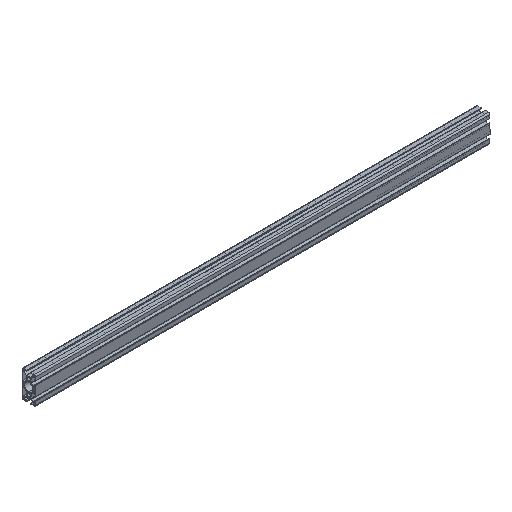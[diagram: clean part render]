
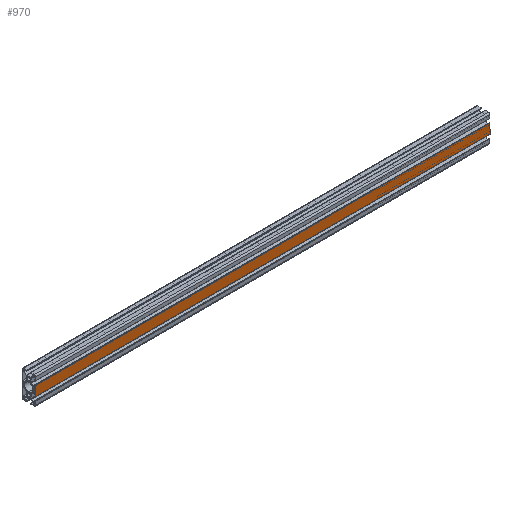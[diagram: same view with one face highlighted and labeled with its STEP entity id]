
A CAD part, isometric view. The second image highlights one B-rep face of the part: STEP entity #970.
In plain terms, the highlighted planar face has unit normal (0, -1, 0).
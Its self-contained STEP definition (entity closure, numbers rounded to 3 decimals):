
#39 = LINE ( 'NONE', #764, #3389 ) ;
#233 = DIRECTION ( 'NONE',  ( 0., 0., -1. ) ) ;
#264 = EDGE_CURVE ( 'NONE', #2331, #882, #1067, .T. ) ;
#362 = VECTOR ( 'NONE', #1053, 1000. ) ;
#583 = CARTESIAN_POINT ( 'NONE',  ( 0., -15., 10.5 ) ) ;
#752 = ORIENTED_EDGE ( 'NONE', *, *, #3360, .F. ) ;
#764 = CARTESIAN_POINT ( 'NONE',  ( 1000., -15., 10.5 ) ) ;
#790 = ORIENTED_EDGE ( 'NONE', *, *, #264, .T. ) ;
#864 = CARTESIAN_POINT ( 'NONE',  ( 1000., -15., -10.5 ) ) ;
#882 = VERTEX_POINT ( 'NONE', #3095 ) ;
#895 = EDGE_CURVE ( 'NONE', #3205, #882, #2646, .T. ) ;
#954 = CARTESIAN_POINT ( 'NONE',  ( 1000., -15., -10.5 ) ) ;
#970 = ADVANCED_FACE ( 'NONE', ( #3096 ), #2748, .F. ) ;
#972 = VECTOR ( 'NONE', #2127, 1000. ) ;
#1052 = LINE ( 'NONE', #1849, #972 ) ;
#1053 = DIRECTION ( 'NONE',  ( 0., 0., -1. ) ) ;
#1067 = LINE ( 'NONE', #1311, #362 ) ;
#1310 = ORIENTED_EDGE ( 'NONE', *, *, #2693, .T. ) ;
#1311 = CARTESIAN_POINT ( 'NONE',  ( 0., -15., 10.5 ) ) ;
#1317 = CARTESIAN_POINT ( 'NONE',  ( 1000., -15., 10.5 ) ) ;
#1705 = DIRECTION ( 'NONE',  ( 0., 1., 0. ) ) ;
#1849 = CARTESIAN_POINT ( 'NONE',  ( 1000., -15., 10.5 ) ) ;
#1948 = VECTOR ( 'NONE', #3232, 1000. ) ;
#1966 = DIRECTION ( 'NONE',  ( 0., 0., 1. ) ) ;
#2043 = AXIS2_PLACEMENT_3D ( 'NONE', #3267, #1705, #1966 ) ;
#2127 = DIRECTION ( 'NONE',  ( -1., 0., 0. ) ) ;
#2232 = VERTEX_POINT ( 'NONE', #1317 ) ;
#2331 = VERTEX_POINT ( 'NONE', #583 ) ;
#2403 = EDGE_LOOP ( 'NONE', ( #790, #3355, #752, #1310 ) ) ;
#2646 = LINE ( 'NONE', #864, #1948 ) ;
#2693 = EDGE_CURVE ( 'NONE', #2232, #2331, #1052, .T. ) ;
#2748 = PLANE ( 'NONE',  #2043 ) ;
#3095 = CARTESIAN_POINT ( 'NONE',  ( 0., -15., -10.5 ) ) ;
#3096 = FACE_OUTER_BOUND ( 'NONE', #2403, .T. ) ;
#3205 = VERTEX_POINT ( 'NONE', #954 ) ;
#3232 = DIRECTION ( 'NONE',  ( -1., 0., 0. ) ) ;
#3267 = CARTESIAN_POINT ( 'NONE',  ( 1000., -15., 10.5 ) ) ;
#3355 = ORIENTED_EDGE ( 'NONE', *, *, #895, .F. ) ;
#3360 = EDGE_CURVE ( 'NONE', #2232, #3205, #39, .T. ) ;
#3389 = VECTOR ( 'NONE', #233, 1000. ) ;
